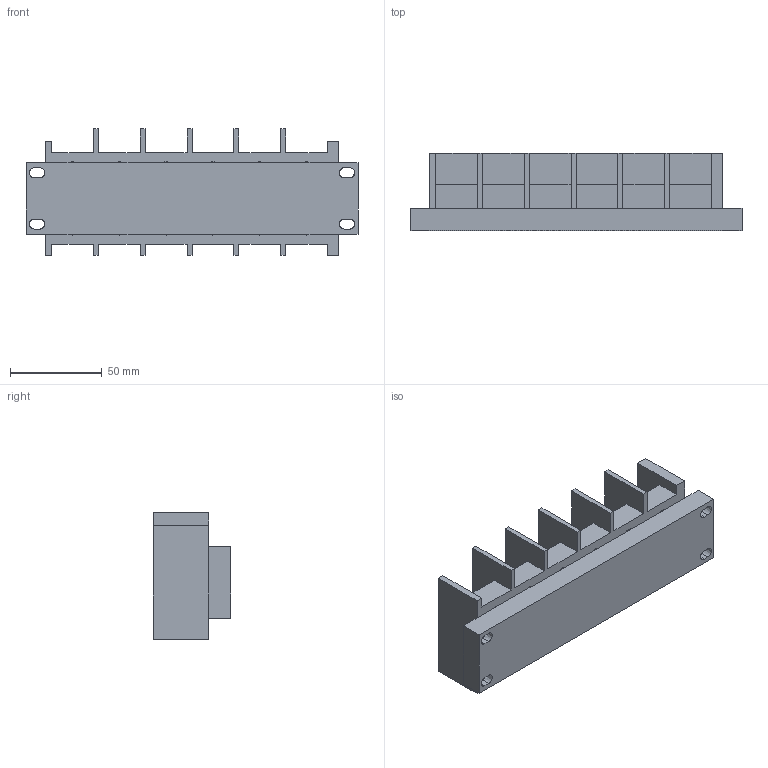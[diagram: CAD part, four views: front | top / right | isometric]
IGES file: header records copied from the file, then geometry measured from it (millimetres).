
Start section:  PTC IGES file: j4-22k-te1.igs
Global section: file name: j4-22k-te1.igs; native system: Pro/ENGINEER by Parametric Technology Corporation; preprocessor: 2010160; author: JE18792; organization: Unknown; date: 20121101.154101; units: millimetre
Bounding box: 181 x 42 x 69 mm (x, y, z)
Volume: 226176.1 mm3; surface area: 56854.6 mm2
Topology: 1 solids, 1 shells, 138 faces, 416 edges, 268 vertices
Faces by surface type: bspline 138
